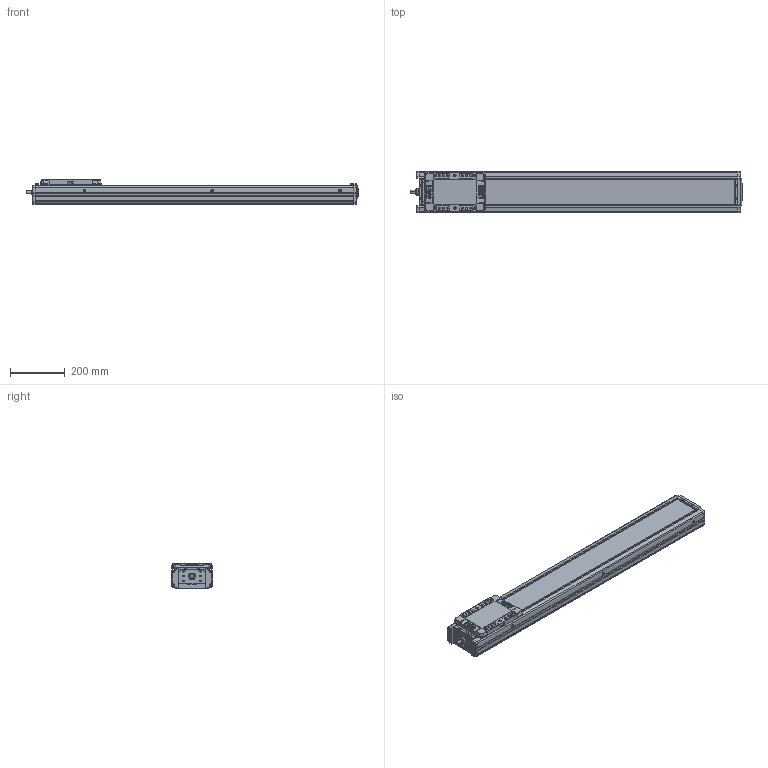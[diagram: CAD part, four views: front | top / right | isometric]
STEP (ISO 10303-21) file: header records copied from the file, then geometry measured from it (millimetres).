
FILE_DESCRIPTION(('STEP AP214'),'1');
FILE_NAME('Z:/Web/3D/SAN150/2013.04 (STP.)/SAN150ㅁㅁ-900.stp','2013-05-07T10:34:44',(' '),(' '),'Spatial InterOp 3D',' ',' ');
FILE_SCHEMA(('automotive_design'));
Length unit declared in the file: millimetre
Products named in the file (37): SLBL-SAN150; SLCV-SAN150; FHCS M4.0 x 8.0; BHCS M4.0 x 10.0; SFX-SAN150; RRCV-SAN150; FRBL-SAN150; Spacer; RN15; FRCV-SAN150; Screw 20; BASE-SAN150-000L ; SUS COVER; 스크루 : Round - M5.0 x 6.0
Bounding box: 1208 x 150 x 90 mm (x, y, z)
Volume: 6383810.9 mm3; surface area: 1179623 mm2
Topology: 37 solids, 37 shells, 2151 faces, 5545 edges, 3530 vertices
Faces by surface type: plane 1015, cylinder 781, cone 270, sphere 52, bspline 21, torus 12
Entity records: 85731 total; most frequent: CARTESIAN_POINT 14329, DIRECTION 11730, ORIENTED_EDGE 10850, EDGE_CURVE 5425, AXIS2_PLACEMENT_3D 4238, VERTEX_POINT 3530, LINE 3254, VECTOR 3254
